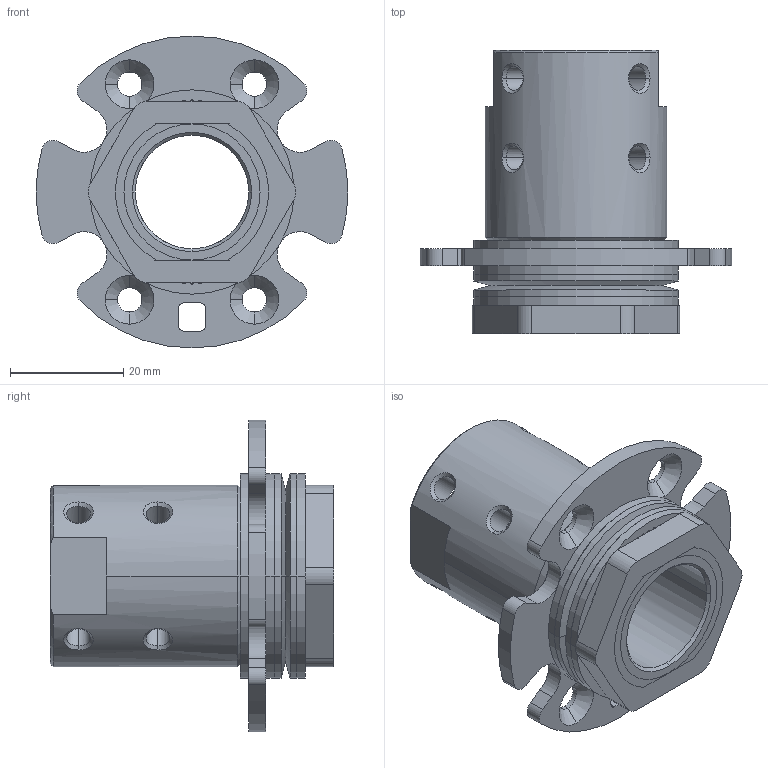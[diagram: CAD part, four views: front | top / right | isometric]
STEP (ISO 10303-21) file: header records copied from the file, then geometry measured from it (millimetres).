
FILE_DESCRIPTION (( 'STEP AP203' ), '1' );
FILE_NAME ('XG11-152.STEP', '2025-12-13T08:56:57', ( '微软用户' ), ( '微软中国' ), 'SwSTEP 2.0', 'SolidWorks 2024', '' );
FILE_SCHEMA (( 'CONFIG_CONTROL_DESIGN' ));
Length unit declared in the file: millimetre
Products named in the file (1): XG11-152
Bounding box: 55 x 50 x 55 mm (x, y, z)
Volume: 28807.5 mm3; surface area: 21146.5 mm2
Topology: 8 solids, 8 shells, 644 faces, 3134 edges, 2077 vertices
Faces by surface type: sphere 432, cylinder 92, plane 55, bspline 34, cone 31
Entity records: 27081 total; most frequent: CARTESIAN_POINT 11146, DIRECTION 3570, ORIENTED_EDGE 2812, AXIS2_PLACEMENT_3D 1667, EDGE_CURVE 1406, VERTEX_POINT 1213, EDGE_LOOP 1121, CIRCLE 1056
